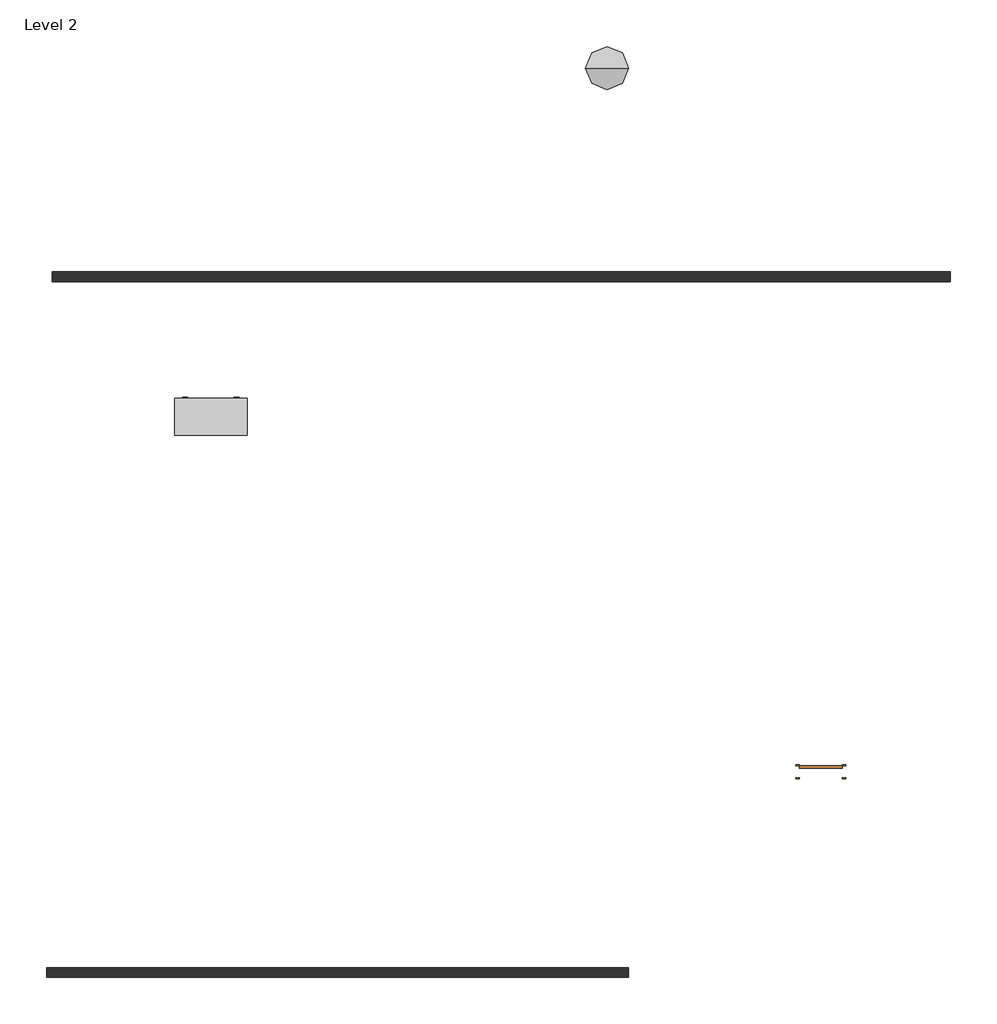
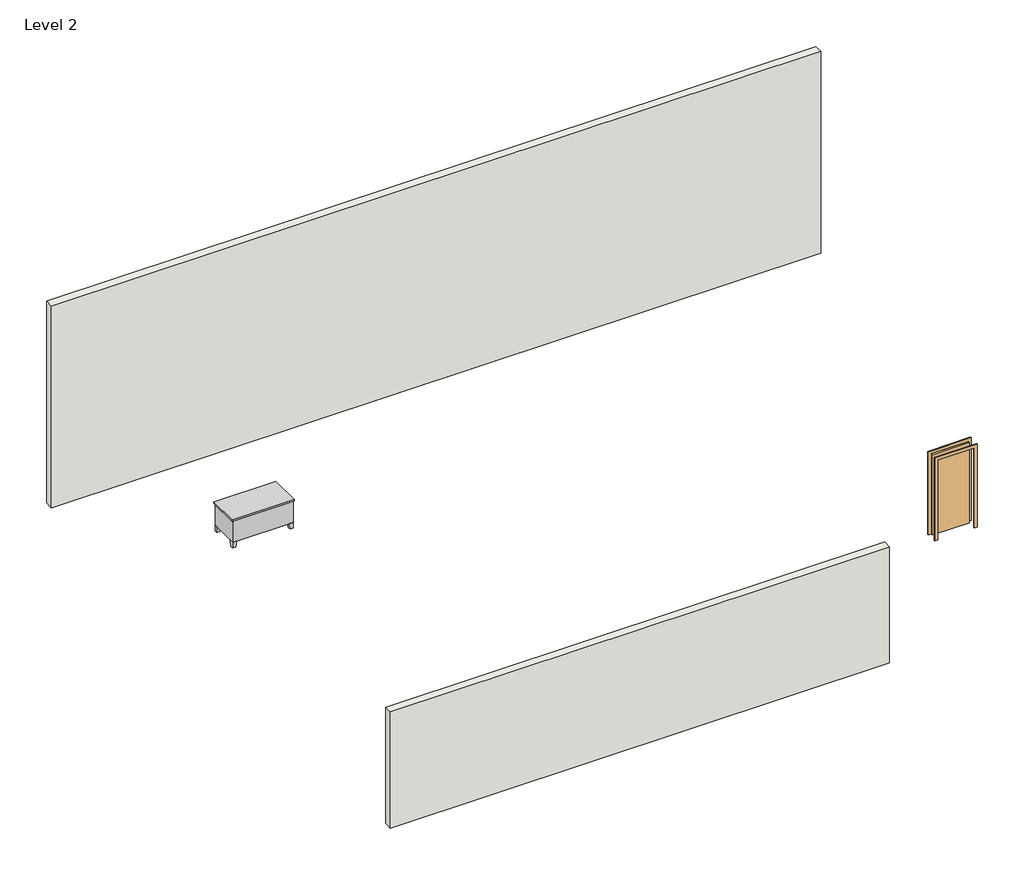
# One storey: 2 walls, 1 door, 1 furniture element, 1 geographic element.
"""IFC4 building model written with IfcOpenShell, lengths in millimetres."""

from ifc_helpers import new_model, si_unit, origin, place, context, project, spatial, faceted_brep, transform, mapped, element, save
from components import single_flush_910_x_2100_9d723dec, desk_1500_x_750_4c5f3064, geographic_element_e8c3bac9

model = new_model("IFC4")

# Units and contexts
model_context = context("Model", 3, world=origin())
ifc_project = project(units=[si_unit("LENGTHUNIT", "METRE", prefix="MILLI")], contexts=[model_context])

# Site, building, storey
site = spatial("IfcSite", under=ifc_project)
building = spatial("IfcBuilding", under=site)
storey = spatial("IfcBuildingStorey", under=building, Name="Level 2", Elevation=3048.0)

# Door
placement = place(None, origin())
single_flush_910_x_2100_shape = single_flush_910_x_2100_9d723dec(model_context)
element("IfcDoor", 1, ObjectType="Single-Flush : 910 x 2100", at=placement, inside=storey, context=model_context, shape_type="MappedRepresentation", body=[
    mapped(single_flush_910_x_2100_shape, transform((2679.6980806, -1734.080369, 3048.0), x_axis=(1.0, 0.0, 0.0), y_axis=(0.0, 1.0, 0.0), z_axis=(0.0, 0.0, 1.0))),
])

# Furniture
desk_1500_x_750_shape = desk_1500_x_750_4c5f3064(model_context)
element("IfcFurniture", 2, ObjectType="Desk : 1500 x 750", at=placement, inside=storey, context=model_context, shape_type="MappedRepresentation", body=[
    mapped(desk_1500_x_750_shape, transform((-11036.3019194, 5428.719631, 3048.0), x_axis=(1.0, 0.0, 0.0), y_axis=(0.0, 1.0, 0.0), z_axis=(0.0, 0.0, 1.0))),
])

# Geographic element
geographic_element_shape = geographic_element_e8c3bac9(model_context)
element("IfcGeographicElement", 3, ObjectType="Shubbery : Shubbery", at=placement, inside=storey, context=model_context, shape_type="MappedRepresentation", body=[
    mapped(geographic_element_shape, transform((-1864.5183381, 13213.8874183, 3048.0), x_axis=(1.0, 0.0, 0.0), y_axis=(0.0, 1.0, 0.0), z_axis=(0.0, 0.0, 1.0))),
])

# Walls
element("IfcWall", 4, ObjectType="Generic - 8\"", at=placement, inside=storey, context=model_context, shape_type="Brep", body=[
    faceted_brep([(-13654.5019194, 8679.919631, 3048.0), (5422.8980806, 8679.919631, 3048.0), (5422.8980806, 8679.919631, 8345.7318304), (-13654.5019194, 8679.919631, 8345.7318304), (-13654.5019194, 8883.119631, 3048.0), (-13654.5019194, 8883.119631, 3657.6), (-13654.5019194, 8883.119631, 8345.7318304), (5422.8980806, 8883.119631, 8345.7318304), (5422.8980806, 8883.119631, 3048.0)], [[[0, 1, 2, 3]], [[4, 5, 6, 7, 8]], [[1, 0, 4, 8]], [[2, 1, 8, 7]], [[3, 2, 7, 6]], [[0, 3, 6, 5, 4]]]),
])
element("IfcWall", 5, ObjectType="Generic - 8\"", at=placement, inside=storey, context=model_context, shape_type="Brep", body=[
    faceted_brep([(-13779.5019194, -6102.880369, 3657.6), (-1407.7019194, -6102.880369, 3657.6), (-1407.7019194, -6102.880369, 4572.0), (-1407.7019194, -6102.880369, 6705.6), (-13779.5019194, -6102.880369, 6705.6), (-13779.5019194, -5899.680369, 3657.6), (-13779.5019194, -5899.680369, 6705.6), (-1407.7019194, -5899.680369, 6705.6), (-1407.7019194, -5899.680369, 3657.6)], [[[0, 1, 2, 3, 4]], [[5, 6, 7, 8]], [[1, 0, 5, 8]], [[4, 3, 7, 6]], [[0, 4, 6, 5]], [[3, 2, 1, 8, 7]]]),
])

save(model, "model.ifc")
